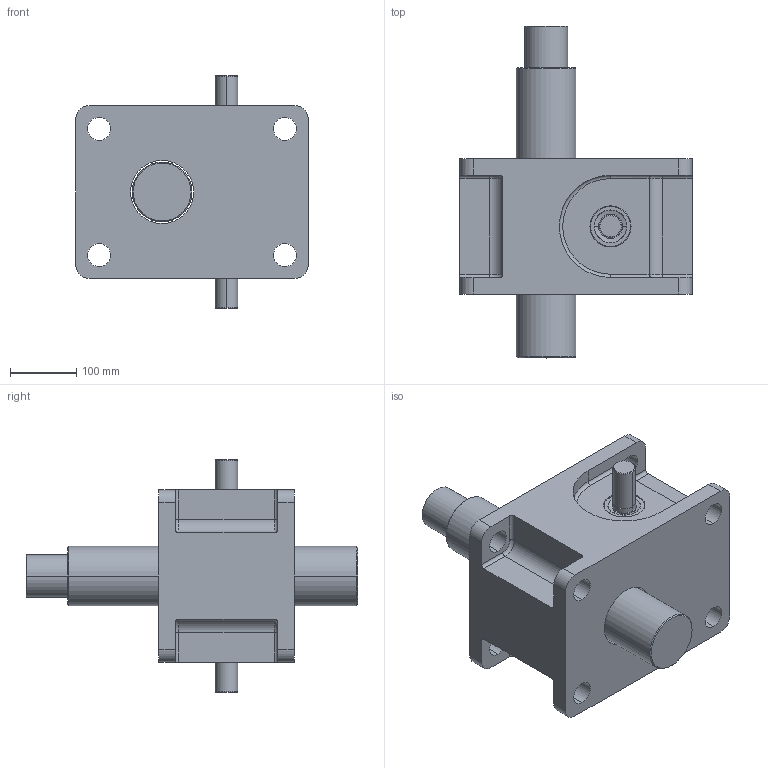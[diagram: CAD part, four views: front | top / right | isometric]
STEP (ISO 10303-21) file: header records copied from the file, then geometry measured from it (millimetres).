
FILE_DESCRIPTION (( 'STEP AP203' ), '1' );
FILE_NAME ('LMA25_30.STEP', '2008-07-31T00:28:00', ( 'Cliente' ), ( 'Home' ), 'SwSTEP 2.0', 'SolidWorks 2008', '' );
FILE_SCHEMA (( 'CONFIG_CONTROL_DESIGN' ));
Length unit declared in the file: millimetre
Products named in the file (6): fuso_Valor predeterminado; LMA25_30; carcaça_Valor predeterminado; sem_fim_Valor predeterminado; Taper Roller Bearing_DIN_DIN 720 - 30206 - 16,SI,NC,16; EspelharTaper Roller Bearing_DIN_DIN 720 - 30206 - 16,SI,NC,16
Assembly tree (5 placements, depth 2):
  LMA25_30
    carcaça_Valor predeterminado
    sem_fim_Valor predeterminado
    fuso_Valor predeterminado
    Taper Roller Bearing_DIN_DIN 720 - 30206 - 16,SI,NC,16
    EspelharTaper Roller Bearing_DIN_DIN 720 - 30206 - 16,SI,NC,16
Bounding box: 350 x 500 x 350 mm (x, y, z)
Volume: 16470041.1 mm3; surface area: 779237.6 mm2
Topology: 5 solids, 5 shells, 197 faces, 453 edges, 277 vertices
Faces by surface type: cylinder 85, cone 50, plane 43, torus 19
Entity records: 6275 total; most frequent: DIRECTION 1107, CARTESIAN_POINT 947, ORIENTED_EDGE 906, EDGE_CURVE 453, AXIS2_PLACEMENT_3D 453, VERTEX_POINT 277, CIRCLE 248, EDGE_LOOP 232
